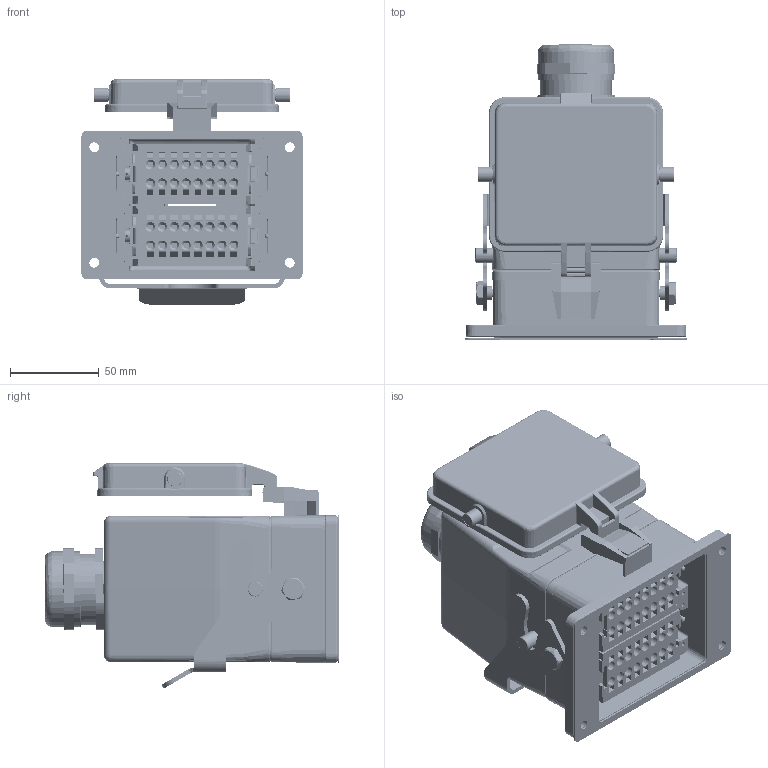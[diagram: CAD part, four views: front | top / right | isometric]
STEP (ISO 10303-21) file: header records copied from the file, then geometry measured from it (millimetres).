
FILE_DESCRIPTION (( 'STEP AP214' ), '1' );
FILE_NAME ('09132106132M HESH、32针、开孔带盖底座、顶出M32套件、配金属接头.STEP', '2024-04-29T06:39:58', ( 'L' ), ( '' ), 'SwSTEP 2.0', 'SolidWorks 2019', '' );
FILE_SCHEMA (( 'AUTOMOTIVE_DESIGN' ));
Length unit declared in the file: millimetre
Products named in the file (8): H32B-TG-RO-M32.step; HESH-016-FD.stp; 09132106132M HESH、32针、开孔带盖底座、顶出M32套件、配金属接头; HESH-016-F.stp; H32B-AD-LB.step; FAS-32-M.step; HESH-016-MD.stp; HESH-016-M.stp
Assembly tree (7 placements, depth 2):
  09132106132M HESH、32针、开孔带盖底座、顶出M32套件、配金属接头
    HESH-016-M.stp
    HESH-016-F.stp
    HESH-016-MD.stp
    HESH-016-FD.stp
    FAS-32-M.step
    H32B-AD-LB.step
    H32B-TG-RO-M32.step
Bounding box: 124.4 x 165.95 x 126.75 mm (x, y, z)
Volume: 523487.1 mm3; surface area: 274913 mm2
Topology: 7 solids, 11 shells, 6503 faces, 17191 edges, 10975 vertices
Faces by surface type: plane 3563, cylinder 1564, cone 795, bspline 382, torus 109, sphere 90
Entity records: 255980 total; most frequent: CARTESIAN_POINT 75912, ORIENTED_EDGE 33990, DIRECTION 30283, EDGE_CURVE 16995, VERTEX_POINT 10967, LINE 10571, VECTOR 10571, AXIS2_PLACEMENT_3D 9856
